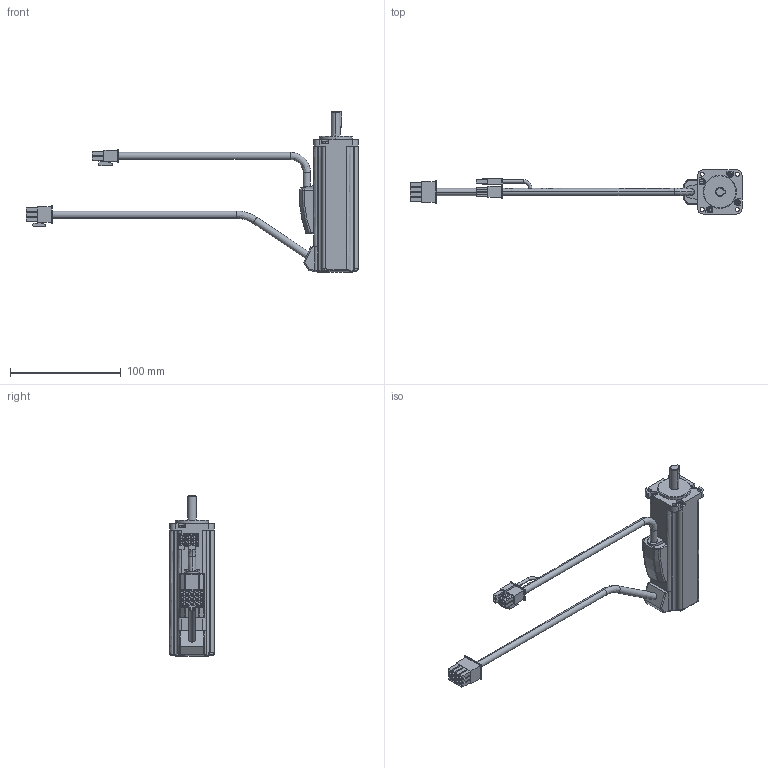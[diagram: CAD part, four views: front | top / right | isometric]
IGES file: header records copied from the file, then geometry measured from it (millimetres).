
Start section:  PTC IGES file: 10001037_rsmz-a8ba_brake.igs
Global section: file name: 10001037_rsmz-a8ba_brake.igs; native system: Pro/ENGINEER by Parametric Technology Corporation; preprocessor: 2004440; author: Administrator; organization: Unknown; date: 070829.201512; units: millimetre
Bounding box: 299.76 x 40 x 145 mm (x, y, z)
Volume: 203364 mm3; surface area: 40439.6 mm2
Topology: 1 solids, 1 shells, 529 faces, 1326 edges, 861 vertices
Faces by surface type: bspline 379, revolution 150
